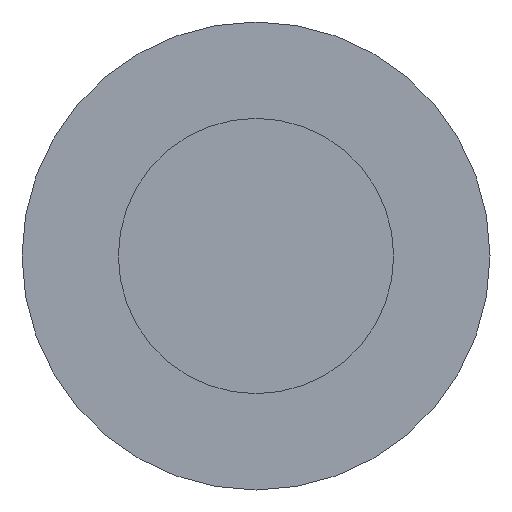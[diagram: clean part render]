
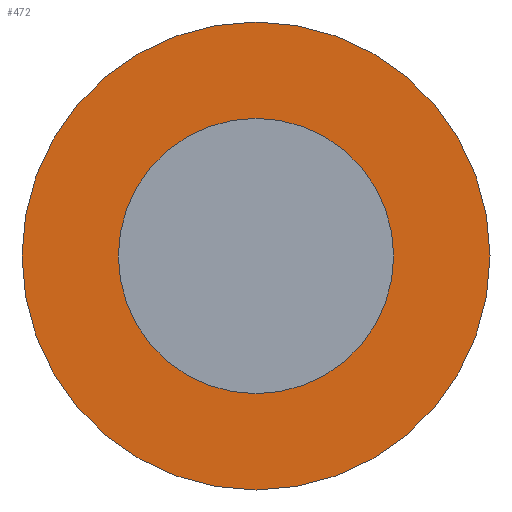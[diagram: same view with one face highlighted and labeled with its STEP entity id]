
A CAD part, front view. The second image highlights one B-rep face of the part: STEP entity #472.
In plain terms, the highlighted planar face has unit normal (0, -1, 0).
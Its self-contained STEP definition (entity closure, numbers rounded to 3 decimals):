
#33 = AXIS2_PLACEMENT_3D ( 'NONE', #1071, #1072, #1073 ) ;
#34 = AXIS2_PLACEMENT_3D ( 'NONE', #1057, #1059, #1060 ) ;
#48 = EDGE_CURVE ( 'NONE', #992, #1000, #618, .T. ) ;
#54 = EDGE_CURVE ( 'NONE', #1000, #992, #608, .T. ) ;
#194 = CARTESIAN_POINT ( 'NONE',  ( 0., 0., -2. ) ) ;
#202 = CARTESIAN_POINT ( 'NONE',  ( 0., 0., 2. ) ) ;
#209 = CARTESIAN_POINT ( 'NONE',  ( 0., 0., 3.4 ) ) ;
#210 = CARTESIAN_POINT ( 'NONE',  ( 0., 0., -3.4 ) ) ;
#221 = AXIS2_PLACEMENT_3D ( 'NONE', #394, #397, #398 ) ;
#224 = AXIS2_PLACEMENT_3D ( 'NONE', #378, #386, #387 ) ;
#230 = AXIS2_PLACEMENT_3D ( 'NONE', #354, #361, #362 ) ;
#354 = CARTESIAN_POINT ( 'NONE',  ( 0., 0., 0. ) ) ;
#359 = PLANE ( 'NONE',  #230 ) ;
#361 = DIRECTION ( 'NONE',  ( 0., -1., 0. ) ) ;
#362 = DIRECTION ( 'NONE',  ( 0., 0., -1. ) ) ;
#378 = CARTESIAN_POINT ( 'NONE',  ( 0., 0., 0. ) ) ;
#386 = DIRECTION ( 'NONE',  ( 0., 1., 0. ) ) ;
#387 = DIRECTION ( 'NONE',  ( 0., 0., 1. ) ) ;
#394 = CARTESIAN_POINT ( 'NONE',  ( 0., 0., 0. ) ) ;
#397 = DIRECTION ( 'NONE',  ( 0., 1., 0. ) ) ;
#398 = DIRECTION ( 'NONE',  ( 0., 0., 1. ) ) ;
#472 = ADVANCED_FACE ( 'NONE', ( #545, #544 ), #359, .T. ) ;
#518 = CIRCLE ( 'NONE', #221, 3.4 ) ;
#525 = CIRCLE ( 'NONE', #224, 3.4 ) ;
#544 = FACE_BOUND ( 'NONE', #679, .T. ) ;
#545 = FACE_OUTER_BOUND ( 'NONE', #681, .T. ) ;
#608 = CIRCLE ( 'NONE', #33, 2. ) ;
#618 = CIRCLE ( 'NONE', #34, 2. ) ;
#679 = EDGE_LOOP ( 'NONE', ( #714, #713 ) ) ;
#681 = EDGE_LOOP ( 'NONE', ( #715, #716 ) ) ;
#713 = ORIENTED_EDGE ( 'NONE', *, *, #48, .F. ) ;
#714 = ORIENTED_EDGE ( 'NONE', *, *, #54, .F. ) ;
#715 = ORIENTED_EDGE ( 'NONE', *, *, #882, .F. ) ;
#716 = ORIENTED_EDGE ( 'NONE', *, *, #888, .F. ) ;
#882 = EDGE_CURVE ( 'NONE', #1007, #1008, #525, .T. ) ;
#888 = EDGE_CURVE ( 'NONE', #1008, #1007, #518, .T. ) ;
#992 = VERTEX_POINT ( 'NONE', #194 ) ;
#1000 = VERTEX_POINT ( 'NONE', #202 ) ;
#1007 = VERTEX_POINT ( 'NONE', #209 ) ;
#1008 = VERTEX_POINT ( 'NONE', #210 ) ;
#1057 = CARTESIAN_POINT ( 'NONE',  ( 0., 0., 0. ) ) ;
#1059 = DIRECTION ( 'NONE',  ( 0., -1., 0. ) ) ;
#1060 = DIRECTION ( 'NONE',  ( 0., 0., -1. ) ) ;
#1071 = CARTESIAN_POINT ( 'NONE',  ( 0., 0., 0. ) ) ;
#1072 = DIRECTION ( 'NONE',  ( 0., -1., 0. ) ) ;
#1073 = DIRECTION ( 'NONE',  ( 0., 0., -1. ) ) ;
